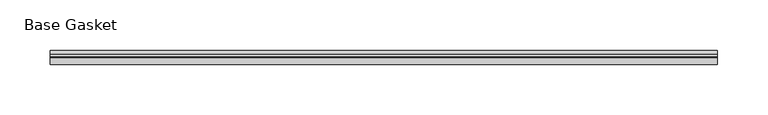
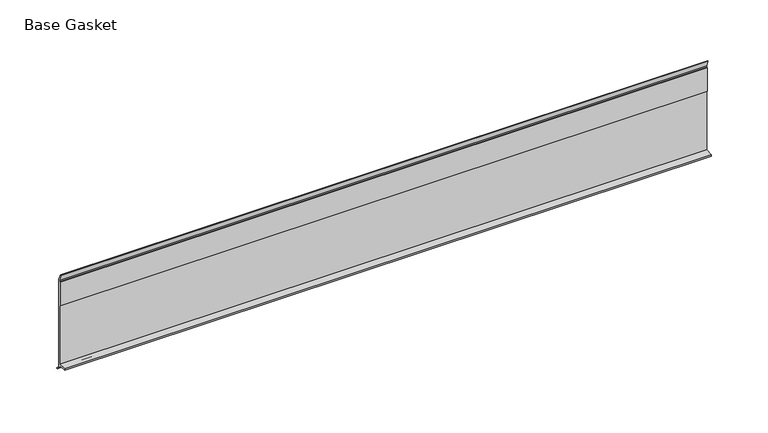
"""IFC4 building model written with IfcOpenShell, lengths in millimetres: furniture geometry, Gasket-Teknion-FHGB-AI_Healthcare-R2021 : Base Gasket."""

from ifc_helpers import new_model, si_unit, frame, origin, place, context, project, spatial, polyline, outline, extrude, source, transform, mapped, element, save


def base_gasket_74f2b74e(model_context):
    return source(origin(), model_context, "Body", "SweptSolid", [
        extrude(outline(polyline([(3.7283812, 98.4568417), (3.7283812, 4.3498477), (7.4222115, 0.6560174), (7.8482342, 0.0), (6.8281054, 0.3520979), (2.2043812, 4.3498477), (2.1334222, 6.3818476), (-6.2405171, 6.3818476), (-6.2405171, 7.9398773), (2.2043812, 7.9398773), (2.2043812, 71.4693447), (1.4106313, 71.4693447), (1.4106313, 96.8693477), (2.2043812, 96.8693477), (2.2043812, 98.4568417), (0.6755308, 104.4162708), (0.6755308, 105.2002997), (1.1891543, 104.587663), (3.7283812, 98.4568417)])), frame((-1527.8982117, 0.0, 0.0), z_axis=(1.0, 0.0, 0.0), x_axis=(0.0, 1.0, 0.0)), (0.0, 0.0, 1.0), 660.4),
    ])


if __name__ == "__main__":
    model = new_model("IFC4")
    model_context = context("Model", 3, world=origin())
    ifc_project = project(units=[si_unit("LENGTHUNIT", "METRE", prefix="MILLI")], contexts=[model_context])
    site = spatial("IfcSite", under=ifc_project)
    building = spatial("IfcBuilding", under=site)
    placement = place(None, origin())
    base_gasket_shape = base_gasket_74f2b74e(model_context)
    element("IfcFurniture", 1, ObjectType="Gasket-Teknion-FHGB-AI_Healthcare-R2021 : Base Gasket", at=placement, inside=building, context=model_context, shape_type="MappedRepresentation", body=[
        mapped(base_gasket_shape, transform((0.0, 0.0, 0.0), x_axis=(1.0, 0.0, 0.0), y_axis=(0.0, 1.0, 0.0), z_axis=(0.0, 0.0, 1.0))),
    ])
    save(model, "model.ifc")
